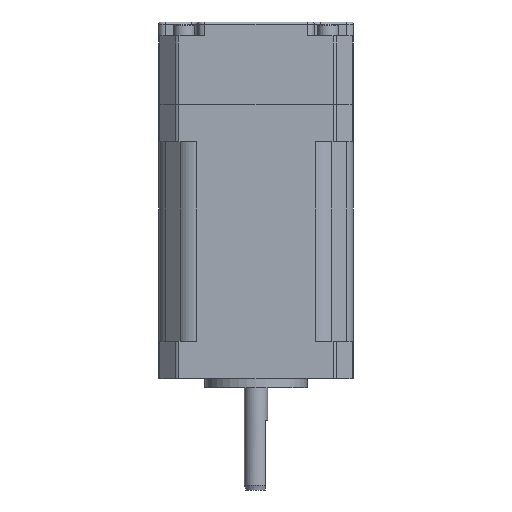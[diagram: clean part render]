
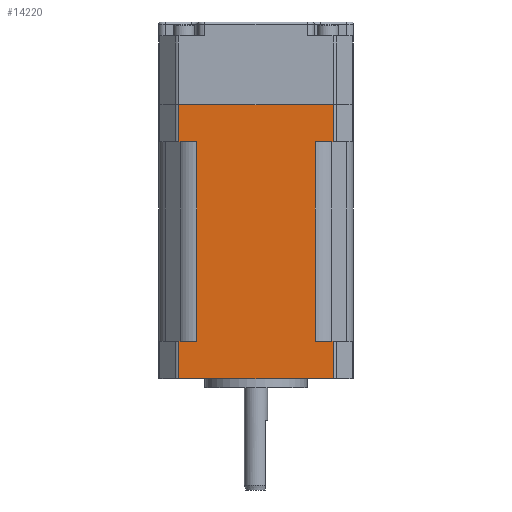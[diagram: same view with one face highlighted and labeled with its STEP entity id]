
A CAD part, front view. The second image highlights one B-rep face of the part: STEP entity #14220.
In plain terms, the highlighted planar face has unit normal (0, -1, 0).
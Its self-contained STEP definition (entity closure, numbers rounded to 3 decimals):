
#5737=DIRECTION('',(-1.,0.,0.));
#5738=VECTOR('',#5737,3.778);
#5739=CARTESIAN_POINT('',(37.586,0.,8.));
#5740=LINE('',#5739,#5738);
#5741=DIRECTION('',(1.,0.,0.));
#5742=VECTOR('',#5741,33.172);
#5743=CARTESIAN_POINT('',(4.414,0.,0.));
#5744=LINE('',#5743,#5742);
#5745=DIRECTION('',(-1.,0.,0.));
#5746=VECTOR('',#5745,3.778);
#5747=CARTESIAN_POINT('',(8.192,0.,8.));
#5748=LINE('',#5747,#5746);
#5763=DIRECTION('',(-1.,0.,0.));
#5764=VECTOR('',#5763,3.778);
#5765=CARTESIAN_POINT('',(37.586,0.,51.));
#5766=LINE('',#5765,#5764);
#5940=DIRECTION('',(1.,0.,0.));
#5941=VECTOR('',#5940,33.172);
#5942=CARTESIAN_POINT('',(4.414,0.,59.));
#5943=LINE('',#5942,#5941);
#6099=DIRECTION('',(0.,0.,-1.));
#6100=VECTOR('',#6099,8.);
#6101=CARTESIAN_POINT('',(37.586,0.,59.));
#6102=LINE('',#6101,#6100);
#6107=DIRECTION('',(0.,0.,1.));
#6108=VECTOR('',#6107,8.);
#6109=CARTESIAN_POINT('',(4.414,0.,51.));
#6110=LINE('',#6109,#6108);
#6120=DIRECTION('',(-1.,0.,0.));
#6121=VECTOR('',#6120,3.778);
#6122=CARTESIAN_POINT('',(8.192,0.,51.));
#6123=LINE('',#6122,#6121);
#6155=DIRECTION('',(0.,0.,1.));
#6156=VECTOR('',#6155,43.);
#6157=CARTESIAN_POINT('',(8.192,0.,8.));
#6158=LINE('',#6157,#6156);
#6199=DIRECTION('',(0.,0.,1.));
#6200=VECTOR('',#6199,8.);
#6201=CARTESIAN_POINT('',(4.414,0.,0.));
#6202=LINE('',#6201,#6200);
#6395=DIRECTION('',(0.,0.,-1.));
#6396=VECTOR('',#6395,43.);
#6397=CARTESIAN_POINT('',(33.808,0.,51.));
#6398=LINE('',#6397,#6396);
#6415=DIRECTION('',(0.,0.,-1.));
#6416=VECTOR('',#6415,8.);
#6417=CARTESIAN_POINT('',(37.586,0.,8.));
#6418=LINE('',#6417,#6416);
#6439=CARTESIAN_POINT('',(4.414,0.,0.));
#6440=CARTESIAN_POINT('',(37.586,0.,0.));
#6441=VERTEX_POINT('',#6439);
#6442=VERTEX_POINT('',#6440);
#6575=CARTESIAN_POINT('',(37.586,0.,51.));
#6576=CARTESIAN_POINT('',(33.808,0.,51.));
#6577=VERTEX_POINT('',#6575);
#6578=VERTEX_POINT('',#6576);
#6579=CARTESIAN_POINT('',(37.586,0.,59.));
#6580=VERTEX_POINT('',#6579);
#6581=CARTESIAN_POINT('',(4.414,0.,59.));
#6582=VERTEX_POINT('',#6581);
#6583=CARTESIAN_POINT('',(4.414,0.,51.));
#6584=VERTEX_POINT('',#6583);
#6585=CARTESIAN_POINT('',(8.192,0.,51.));
#6586=VERTEX_POINT('',#6585);
#6587=CARTESIAN_POINT('',(8.192,0.,8.));
#6588=VERTEX_POINT('',#6587);
#6589=CARTESIAN_POINT('',(4.414,0.,8.));
#6590=VERTEX_POINT('',#6589);
#6591=CARTESIAN_POINT('',(37.586,0.,8.));
#6592=VERTEX_POINT('',#6591);
#6593=CARTESIAN_POINT('',(33.808,0.,8.));
#6594=VERTEX_POINT('',#6593);
#14190=CARTESIAN_POINT('',(42.,0.,59.));
#14191=DIRECTION('',(0.,-1.,0.));
#14192=DIRECTION('',(0.,0.,-1.));
#14193=AXIS2_PLACEMENT_3D('',#14190,#14191,#14192);
#14194=PLANE('',#14193);
#14196=ORIENTED_EDGE('',*,*,#14195,.T.);
#14198=ORIENTED_EDGE('',*,*,#14197,.T.);
#14200=ORIENTED_EDGE('',*,*,#14199,.F.);
#14202=ORIENTED_EDGE('',*,*,#14201,.T.);
#14203=ORIENTED_EDGE('',*,*,#7400,.F.);
#14205=ORIENTED_EDGE('',*,*,#14204,.T.);
#14207=ORIENTED_EDGE('',*,*,#14206,.F.);
#14209=ORIENTED_EDGE('',*,*,#14208,.T.);
#14211=ORIENTED_EDGE('',*,*,#14210,.T.);
#14213=ORIENTED_EDGE('',*,*,#14212,.T.);
#14215=ORIENTED_EDGE('',*,*,#14214,.T.);
#14217=ORIENTED_EDGE('',*,*,#14216,.T.);
#14218=EDGE_LOOP('',(#14196,#14198,#14200,#14202,#14203,#14205,#14207,#14209,
#14211,#14213,#14215,#14217));
#14219=FACE_OUTER_BOUND('',#14218,.F.);
#7400=EDGE_CURVE('',#6441,#6442,#5744,.T.);
#14195=EDGE_CURVE('',#6577,#6578,#5766,.T.);
#14197=EDGE_CURVE('',#6578,#6594,#6398,.T.);
#14199=EDGE_CURVE('',#6592,#6594,#5740,.T.);
#14201=EDGE_CURVE('',#6592,#6442,#6418,.T.);
#14204=EDGE_CURVE('',#6441,#6590,#6202,.T.);
#14206=EDGE_CURVE('',#6588,#6590,#5748,.T.);
#14208=EDGE_CURVE('',#6588,#6586,#6158,.T.);
#14210=EDGE_CURVE('',#6586,#6584,#6123,.T.);
#14212=EDGE_CURVE('',#6584,#6582,#6110,.T.);
#14214=EDGE_CURVE('',#6582,#6580,#5943,.T.);
#14216=EDGE_CURVE('',#6580,#6577,#6102,.T.);
#14220=ADVANCED_FACE('',(#14219),#14194,.T.);
